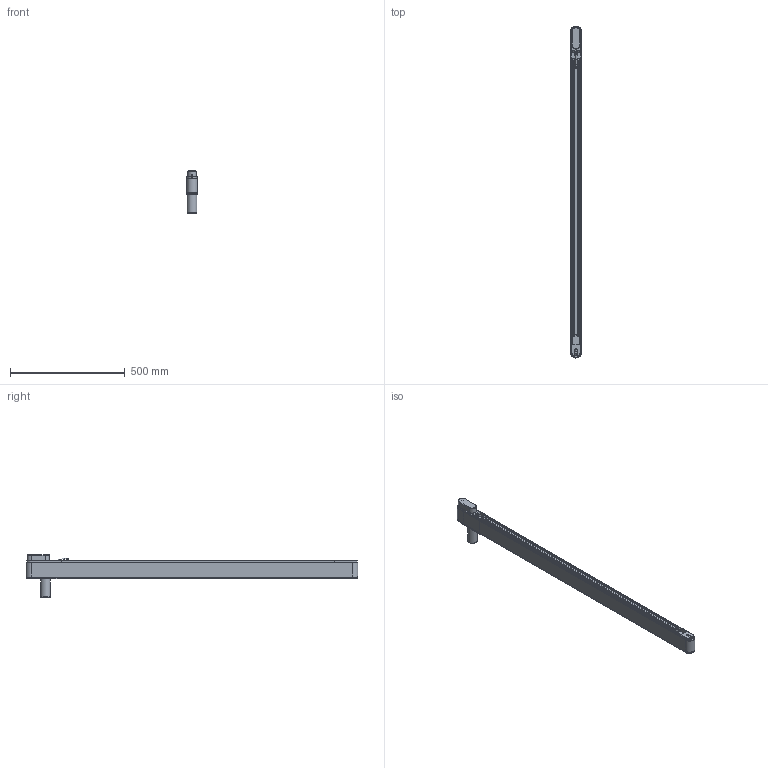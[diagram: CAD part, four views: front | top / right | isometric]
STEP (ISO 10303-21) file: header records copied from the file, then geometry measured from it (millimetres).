
FILE_DESCRIPTION(/* description */ (''),/* implementation_level */ '2;1');
FILE_NAME(/* name */ 'G:\DATEN\CAD\Förderband\Marketing\3D-Modelle (Standard)\FR-40-80-Q\FR-40-80-Q-1400-K (Motorendrohr 80 mm).stp',/* time_stamp */ '2019-05-08T14:24:07+02:00',/* author */ ('melanie.ochs'),/* organization */ (''),/* preprocessor_version */ 'ST-DEVELOPER v17',/* originating_system */ 'Autodesk Inventor 2019',/* authorisation */ '');
FILE_SCHEMA (('CONFIG_CONTROL_DESIGN'));
Length unit declared in the file: centimetre
Products named in the file (1): FR-40-80-Q-1400-K (Motorendrohr 80 mm)
Bounding box: 46.6 x 1446.6 x 185 mm (x, y, z)
Volume: 2116836.7 mm3; surface area: 1455807.4 mm2
Topology: 31 solids, 32 shells, 893 faces, 2430 edges, 1654 vertices
Faces by surface type: plane 444, cylinder 283, cone 74, bspline 61, torus 31
Full cylindrical faces by diameter (mm): 2 x2, 4 x6, 4.3 x4, 4.65 x1, 4.917 x2, 5 x11, 5.5 x8, 6 x2, 6.5 x1, 6.773 x1, 6.917 x2, 8 x7, 8.3 x20, 8.5 x8, 8.773 x1, 10 x1, 11 x1, 12 x3, 25 x2, 28 x4, 42 x2, 44 x2
Entity records: 30069 total; most frequent: CARTESIAN_POINT 6297, ORIENTED_EDGE 4824, DIRECTION 4705, EDGE_CURVE 2412, AXIS2_PLACEMENT_3D 1714, VERTEX_POINT 1654, LINE 1277, VECTOR 1277
